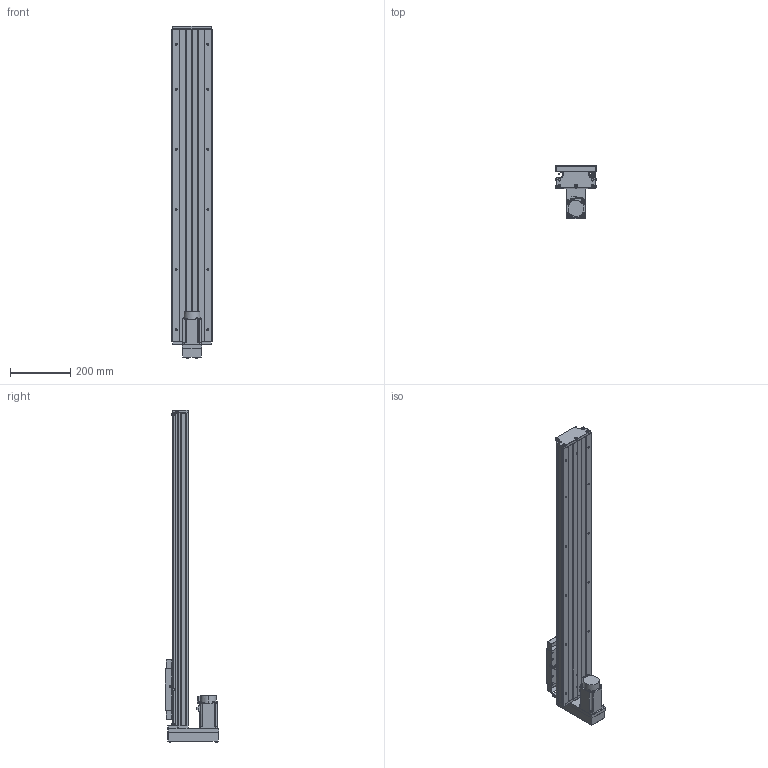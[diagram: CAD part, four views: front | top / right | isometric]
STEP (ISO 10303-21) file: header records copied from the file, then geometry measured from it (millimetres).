
FILE_DESCRIPTION (( 'STEP AP203' ), '1' );
FILE_NAME ('GTH14-800-BM-M40-C4.step', '2023-06-30T08:47:29', ( '微软用户' ), ( '微软中国' ), 'SwSTEP 2.0', 'SolidWorks 2020', '' );
FILE_SCHEMA (( 'CONFIG_CONTROL_DESIGN' ));
Length unit declared in the file: millimetre
Products named in the file (19): GB1155-6X6; GTH14-031; GTH14-800-BM-M40-C4; GBT70.1 M5℅16; GBT 70.2-M3¡Á5_M3¡Á6; CTHA60-017; す晦芛蹟隊 M3℅5; GTH14-001_800; EE_SX911P_R; HG-KN43J-S100; GTH14-002_GTH14-002; CTHA60-016; GBT 70.2-M4¡Á35_M4¡Á35; GTH14-004; GBT 70.1-M3℅5; GTH14-015-2_CTHA86-015-2; GTH14-005; GBT77-2000 M3×3; GTH14-033
Assembly tree (58 placements, depth 2):
  GTH14-800-BM-M40-C4
    GTH14-001_800
    GTH14-002_GTH14-002
    GTH14-004
    GTH14-005
    GB1155-6X6  x2
    GBT70.1 M5℅16  x10
    CTHA60-017  x3
    EE_SX911P_R  x3
    CTHA60-016  x2
    GBT 70.1-M3℅5  x6
    GBT77-2000 M3×3  x6
    GTH14-031
    GBT 70.2-M3¡Á5_M3¡Á6  x8
    す晦芛蹟隊 M3℅5  x6
    HG-KN43J-S100
    GBT 70.2-M4¡Á35_M4¡Á35  x4
    GTH14-015-2_CTHA86-015-2
    GTH14-033
Bounding box: 135 x 177.5 x 1104.2 mm (x, y, z)
Volume: 6005365 mm3; surface area: 989560.6 mm2
Topology: 61 solids, 61 shells, 2463 faces, 5857 edges, 3610 vertices
Faces by surface type: plane 1309, cylinder 664, cone 314, torus 124, sphere 32, bspline 20
Entity records: 44466 total; most frequent: CARTESIAN_POINT 9907, DIRECTION 6549, ORIENTED_EDGE 6404, EDGE_CURVE 3202, AXIS2_PLACEMENT_3D 2244, LINE 2061, VECTOR 2061, VERTEX_POINT 2028
